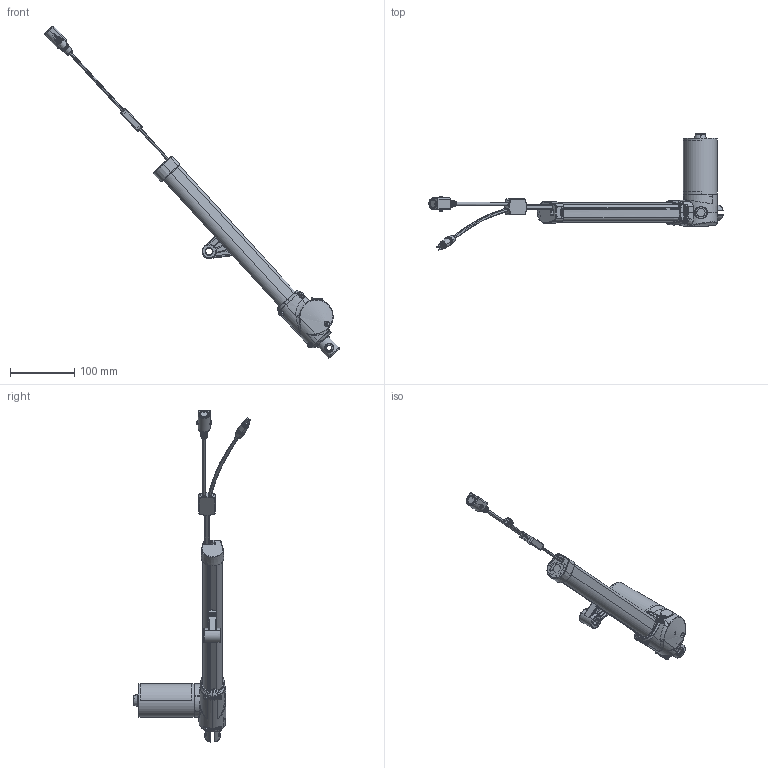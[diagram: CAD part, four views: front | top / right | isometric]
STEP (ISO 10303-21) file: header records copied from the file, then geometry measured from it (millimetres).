
FILE_DESCRIPTION((''),'2;1');
FILE_NAME('BD23_ASM_ASM','2016-08-10T',('user'),(''),'PRO/ENGINEER BY PARAMETRIC TECHNOLOGY CORPORATION, 2008090','PRO/ENGINEER BY PARAMETRIC TECHNOLOGY CORPORATION, 2008090','');
FILE_SCHEMA(('CONFIG_CONTROL_DESIGN'));
Length unit declared in the file: millimetre
Products named in the file (4): PRT0001; ASM0001_ASM_1_ASM; 122121; BD23_ASM_ASM
Assembly tree (3 placements, depth 3):
  BD23_ASM_ASM
    ASM0001_ASM_1_ASM
      PRT0001
    122121
Bounding box: 456.63 x 181.2 x 514.93 mm (x, y, z)
Volume: 28634.7 mm3; surface area: 208346 mm2
Topology: 1 solids, 30 shells, 2514 faces, 7475 edges, 5046 vertices
Faces by surface type: plane 1139, cylinder 835, bspline 306, torus 176, cone 44, sphere 12, extrusion 2
Entity records: 113105 total; most frequent: CARTESIAN_POINT 47545, ORIENTED_EDGE 14699, DIRECTION 12534, EDGE_CURVE 7466, VERTEX_POINT 5046, AXIS2_PLACEMENT_3D 4527, VECTOR 3480, LINE 3478
